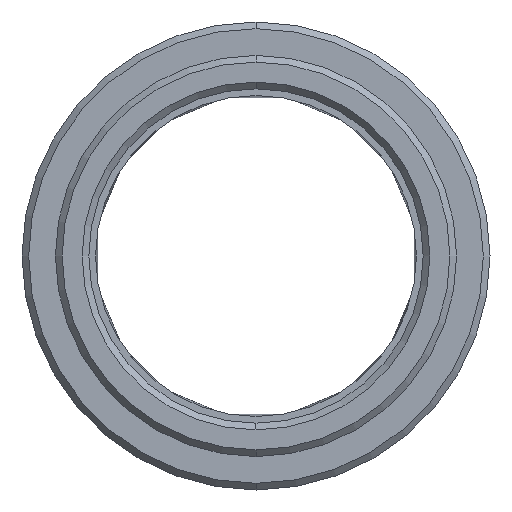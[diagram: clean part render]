
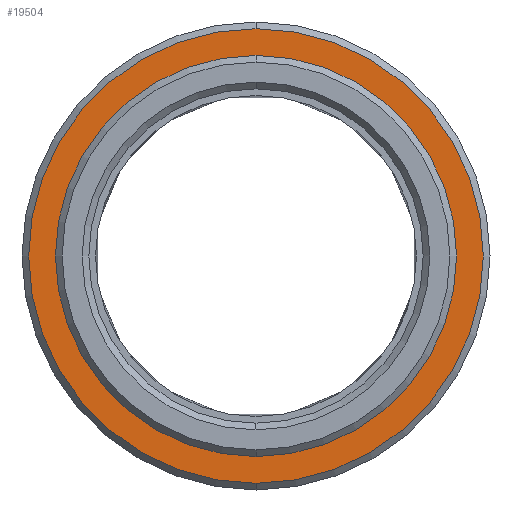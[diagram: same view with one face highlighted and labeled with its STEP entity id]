
A CAD part, left-side view. The second image highlights one B-rep face of the part: STEP entity #19504.
In plain terms, the highlighted planar face has unit normal (-1, 0, 0).
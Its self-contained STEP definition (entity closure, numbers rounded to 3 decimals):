
#7884=CARTESIAN_POINT('',(0.,0.,0.));
#7885=DIRECTION('',(1.,0.,0.));
#7886=DIRECTION('',(0.,0.,1.));
#7887=AXIS2_PLACEMENT_3D('',#7884,#7885,#7886);
#7889=CARTESIAN_POINT('',(0.,0.,0.));
#7890=DIRECTION('',(-1.,0.,0.));
#7891=DIRECTION('',(0.,0.,1.));
#7892=AXIS2_PLACEMENT_3D('',#7889,#7890,#7891);
#7894=CARTESIAN_POINT('',(0.,0.,
0.));
#7895=DIRECTION('',(1.,0.,0.));
#7896=DIRECTION('',(0.,0.,-1.));
#7897=AXIS2_PLACEMENT_3D('',#7894,#7895,#7896);
#7899=CARTESIAN_POINT('',(0.,0.,
0.));
#7900=DIRECTION('',(1.,0.,0.));
#7901=DIRECTION('',(0.,0.,1.));
#7902=AXIS2_PLACEMENT_3D('',#7899,#7900,#7901);
#15954=CARTESIAN_POINT('',(0.,0.,-17.));
#15955=CARTESIAN_POINT('',(0.,0.,17.));
#15956=VERTEX_POINT('',#15954);
#15957=VERTEX_POINT('',#15955);
#16494=CARTESIAN_POINT('',(0.,0.,15.));
#16495=CARTESIAN_POINT('',(0.,0.,-15.));
#16496=VERTEX_POINT('',#16494);
#16497=VERTEX_POINT('',#16495);
#19489=CARTESIAN_POINT('',(0.,0.,0.));
#19490=DIRECTION('',(1.,0.,0.));
#19491=DIRECTION('',(0.,0.,1.));
#19492=AXIS2_PLACEMENT_3D('',#19489,#19490,#19491);
#19493=PLANE('',#19492);
#19495=ORIENTED_EDGE('',*,*,#19494,.T.);
#19497=ORIENTED_EDGE('',*,*,#19496,.T.);
#19498=EDGE_LOOP('',(#19495,#19497));
#19499=FACE_OUTER_BOUND('',#19498,.F.);
#19500=ORIENTED_EDGE('',*,*,#19456,.F.);
#19501=ORIENTED_EDGE('',*,*,#19471,.T.);
#19502=EDGE_LOOP('',(#19500,#19501));
#19503=FACE_BOUND('',#19502,.F.);
#19504=ADVANCED_FACE('',(#19499,#19503),#19493,.F.);
#7888=CIRCLE('',#7887,15.);
#7893=CIRCLE('',#7892,15.);
#7898=CIRCLE('',#7897,17.);
#7903=CIRCLE('',#7902,17.);
#19456=EDGE_CURVE('',#16496,#16497,#7888,.T.);
#19471=EDGE_CURVE('',#16496,#16497,#7893,.T.);
#19494=EDGE_CURVE('',#15956,#15957,#7898,.T.);
#19496=EDGE_CURVE('',#15957,#15956,#7903,.T.);
